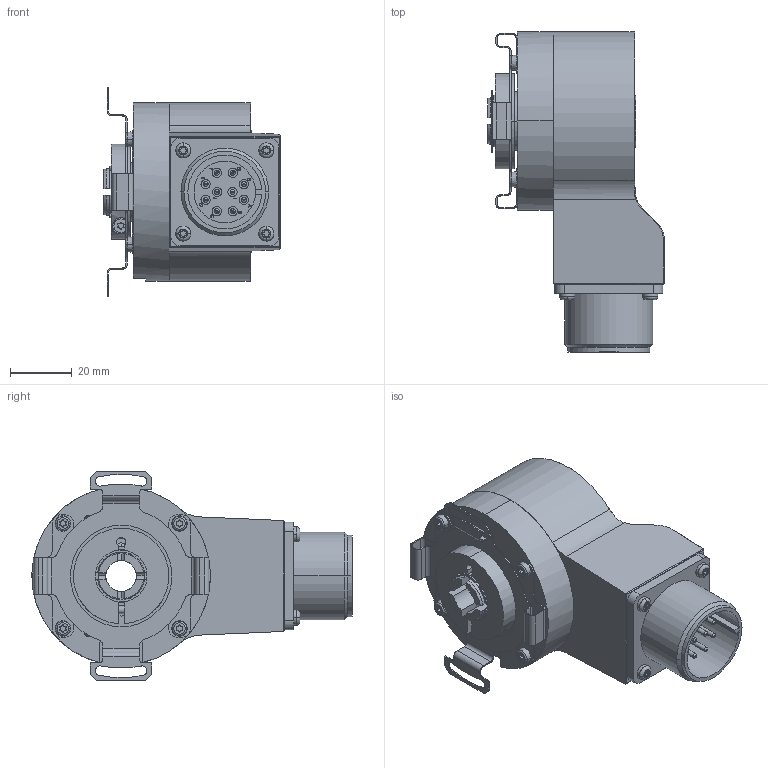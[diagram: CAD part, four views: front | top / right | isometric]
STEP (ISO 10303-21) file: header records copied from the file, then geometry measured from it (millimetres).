
FILE_DESCRIPTION (( 'STEP AP203' ), '1' );
FILE_NAME ('K58I.OXX.XXXXX.XH22510.6XRCE.step', '2025-12-08T14:30:30', ( '' ), ( '' ), 'SwSTEP 2.0', 'SolidWorks 2021', '' );
FILE_SCHEMA (( 'CONFIG_CONTROL_DESIGN' ));
Length unit declared in the file: millimetre
Products named in the file (1): K58I.OXX.XXXXX.XH22510.6XRCE
Bounding box: 57.3 x 104 x 68 mm (x, y, z)
Volume: 143757.9 mm3; surface area: 47524.2 mm2
Topology: 8 solids, 8 shells, 847 faces, 2110 edges, 1330 vertices
Faces by surface type: cylinder 358, plane 337, cone 61, bspline 55, torus 36
Entity records: 29456 total; most frequent: CARTESIAN_POINT 9038, DIRECTION 4346, ORIENTED_EDGE 4192, EDGE_CURVE 2096, AXIS2_PLACEMENT_3D 1629, VERTEX_POINT 1330, LINE 1088, VECTOR 1088
